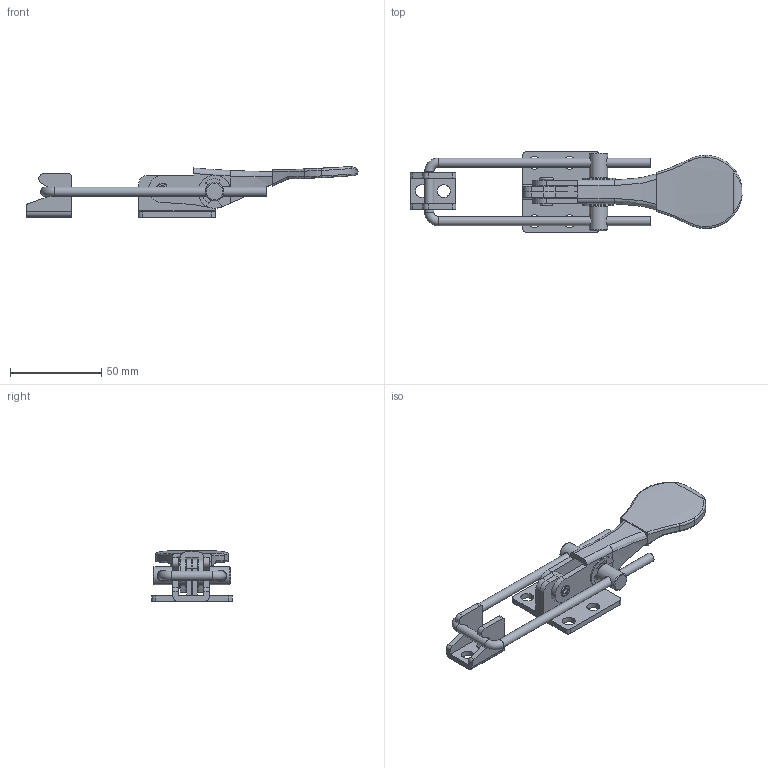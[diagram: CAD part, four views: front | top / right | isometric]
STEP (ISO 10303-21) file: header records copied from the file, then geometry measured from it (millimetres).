
FILE_DESCRIPTION(/* description */ (''),/* implementation_level */ '2;1');
FILE_NAME(/* name */ '\\NAS\db20\C-032-42FAS\DR_C-032-42FAS.stp',/* time_stamp */ '2018-03-02T09:27:02+09:00',/* author */ ('user'),/* organization */ (''),/* preprocessor_version */ 'ST-DEVELOPER v15.6',/* originating_system */ 'Autodesk Inventor 2015',/* authorisation */ '');
FILE_SCHEMA (('AUTOMOTIVE_DESIGN { 1 0 10303 214 3 1 1 }'));
Length unit declared in the file: millimetre
Products named in the file (7): DR_C-032-42FAS-A; DR_C-032-42FAS-B; DR_C-032-42FAS-C; DR_C-032-42FAS-H; DR_E링; DR_C-032-42FAS-BR; DR_C-032-42FAS
Bounding box: 181.45 x 44 x 27.7 mm (x, y, z)
Volume: 38015.1 mm3; surface area: 28426.9 mm2
Topology: 10 solids, 10 shells, 206 faces, 521 edges, 339 vertices
Faces by surface type: cylinder 90, plane 73, bspline 34, torus 6, cone 3
Full cylindrical faces by diameter (mm): 3.5 x1, 4 x5, 5 x3, 6 x2, 7 x6, 7.5 x2, 10 x5
Entity records: 10922 total; most frequent: CARTESIAN_POINT 6516, ORIENTED_EDGE 850, DIRECTION 845, EDGE_CURVE 425, AXIS2_PLACEMENT_3D 332, VERTEX_POINT 294, EDGE_LOOP 251, FACE_OUTER_BOUND 186
